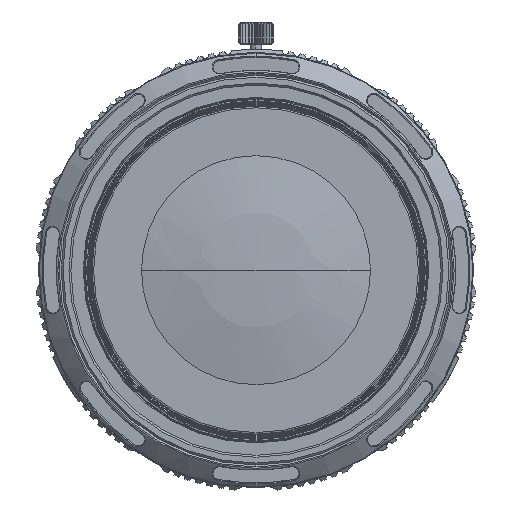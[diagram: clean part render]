
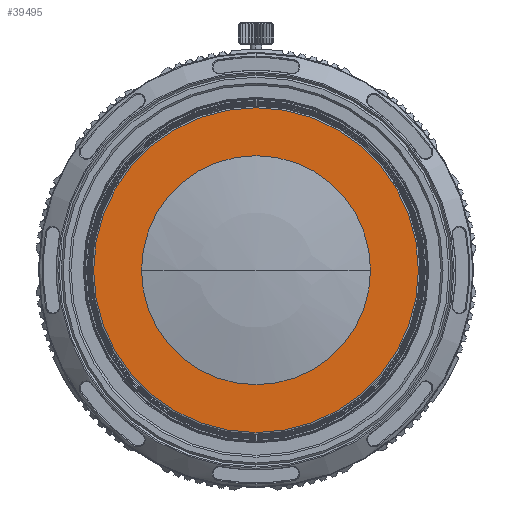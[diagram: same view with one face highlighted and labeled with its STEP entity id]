
A CAD part, left-side view. The second image highlights one B-rep face of the part: STEP entity #39495.
In plain terms, the highlighted planar face has unit normal (-1, 0, 0).
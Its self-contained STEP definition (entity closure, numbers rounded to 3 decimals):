
#14855=CARTESIAN_POINT('',(-40.322,0.,0.));
#14856=DIRECTION('',(1.,0.,0.));
#14857=DIRECTION('',(0.,1.,0.));
#14858=AXIS2_PLACEMENT_3D('',#14855,#14856,#14857);
#14860=CARTESIAN_POINT('',(-40.322,0.,0.));
#14861=DIRECTION('',(1.,0.,0.));
#14862=DIRECTION('',(0.,-1.,0.));
#14863=AXIS2_PLACEMENT_3D('',#14860,#14861,#14862);
#14865=CARTESIAN_POINT('',(-40.322,0.,0.));
#14866=DIRECTION('',(-1.,0.,0.));
#14867=DIRECTION('',(0.,-1.,0.));
#14868=AXIS2_PLACEMENT_3D('',#14865,#14866,#14867);
#14870=CARTESIAN_POINT('',(-40.322,0.,0.));
#14871=DIRECTION('',(-1.,0.,0.));
#14872=DIRECTION('',(0.,1.,0.));
#14873=AXIS2_PLACEMENT_3D('',#14870,#14871,#14872);
#20772=CARTESIAN_POINT('',(-40.322,-25.,0.));
#20774=VERTEX_POINT('',#20772);
#20777=CARTESIAN_POINT('',(-40.322,25.,0.));
#20778=VERTEX_POINT('',#20777);
#20779=CARTESIAN_POINT('',(-40.322,-17.627,0.));
#20780=CARTESIAN_POINT('',(-40.322,17.627,0.));
#20781=VERTEX_POINT('',#20779);
#20782=VERTEX_POINT('',#20780);
#39480=CARTESIAN_POINT('',(-40.322,0.,0.));
#39481=DIRECTION('',(-1.,0.,0.));
#39482=DIRECTION('',(0.,-1.,0.));
#39483=AXIS2_PLACEMENT_3D('',#39480,#39481,#39482);
#39484=PLANE('',#39483);
#39485=ORIENTED_EDGE('',*,*,#39472,.T.);
#39486=ORIENTED_EDGE('',*,*,#39461,.T.);
#39487=EDGE_LOOP('',(#39485,#39486));
#39488=FACE_OUTER_BOUND('',#39487,.F.);
#39490=ORIENTED_EDGE('',*,*,#39489,.T.);
#39492=ORIENTED_EDGE('',*,*,#39491,.T.);
#39493=EDGE_LOOP('',(#39490,#39492));
#39494=FACE_BOUND('',#39493,.F.);
#14859=CIRCLE('',#14858,25.);
#14864=CIRCLE('',#14863,25.);
#14869=CIRCLE('',#14868,17.627);
#14874=CIRCLE('',#14873,17.627);
#39461=EDGE_CURVE('',#20774,#20778,#14864,.T.);
#39472=EDGE_CURVE('',#20778,#20774,#14859,.T.);
#39489=EDGE_CURVE('',#20781,#20782,#14869,.T.);
#39491=EDGE_CURVE('',#20782,#20781,#14874,.T.);
#39495=ADVANCED_FACE('',(#39488,#39494),#39484,.T.);
